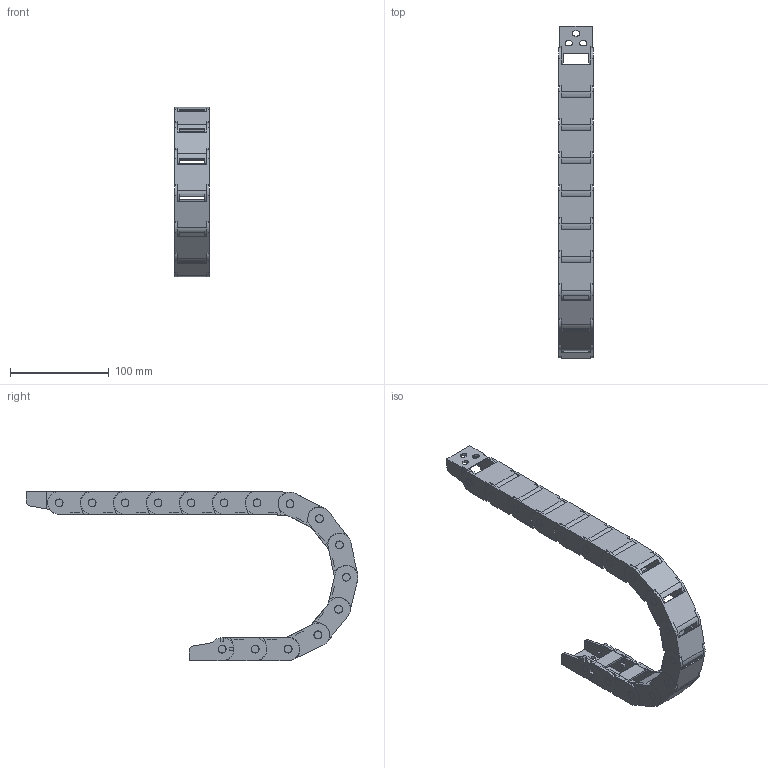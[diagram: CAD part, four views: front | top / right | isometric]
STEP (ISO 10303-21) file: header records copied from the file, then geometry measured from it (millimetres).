
FILE_DESCRIPTION((''),'2;1');
FILE_NAME('NK-18X25-R75_ASM','2022-05-11T20:48:25',('admin'),(''),'CREO PARAMETRIC BY PTC INC, 2021164','CREO PARAMETRIC BY PTC INC, 2021164','');
FILE_SCHEMA(('CONFIG_CONTROL_DESIGN','GEOMETRIC_VALIDATION_PROPERTIES_MIM'));
Length unit declared in the file: millimetre
Products named in the file (5): 18X25-R75; PIAN-1825; LTT-18X25-1; LTT-18X25-2; NK-18X25-R75_ASM
Assembly tree (32 placements, depth 2):
  NK-18X25-R75_ASM
    18X25-R75  x15
    PIAN-1825  x15
    LTT-18X25-1
    LTT-18X25-2
Bounding box: 36 x 336.93 x 171.96 mm (x, y, z)
Volume: 154066.2 mm3; surface area: 141741.1 mm2
Topology: 32 solids, 32 shells, 1184 faces, 3264 edges, 2176 vertices
Faces by surface type: plane 786, cylinder 398
Entity records: 9397 total; most frequent: CARTESIAN_POINT 1074, DIRECTION 1046, ORIENTED_EDGE 984, PRESENTATION_STYLE_ASSIGNMENT 672, STYLED_ITEM 672, CURVE_STYLE 492, EDGE_CURVE 492, VECTOR 364
